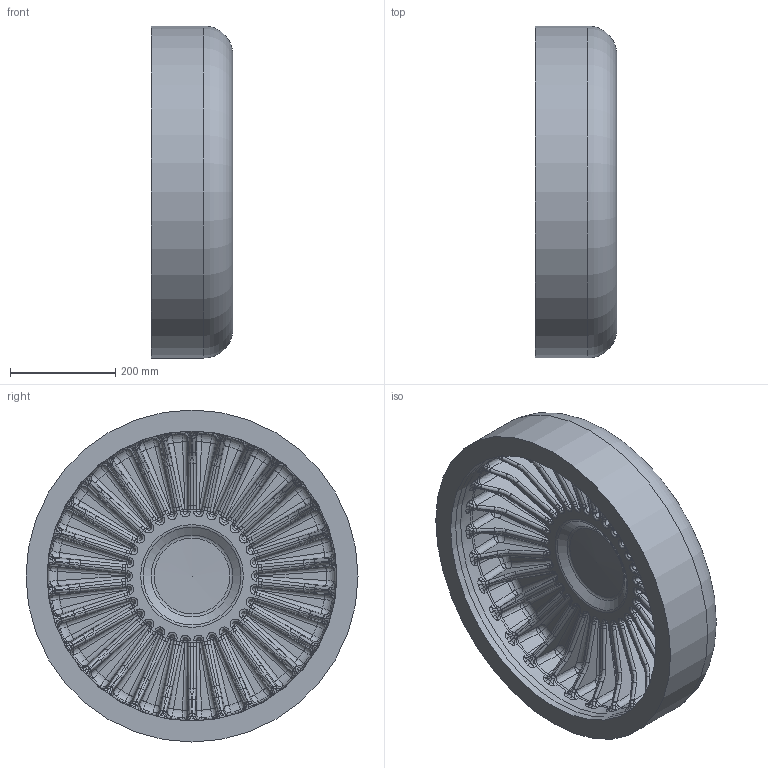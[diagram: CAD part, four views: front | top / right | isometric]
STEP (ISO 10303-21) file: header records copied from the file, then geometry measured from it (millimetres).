
FILE_DESCRIPTION(/* description */ ('Unknown'),/* implementation_level */ '2;1');
FILE_NAME(/* name */ 'CAP630B',/* time_stamp */ '2022-05-16T10:23:22+02:00',/* author */ ('Unknown'),/* organization */ ('Unknown'),/* preprocessor_version */ 'ST-DEVELOPER v18.1',/* originating_system */ 'Solid Edge',/* authorisation */ 'Unknown');
FILE_SCHEMA (('AUTOMOTIVE_DESIGN {1 0 10303 214 3 1 1}'));
Products named in the file (1): CAP630B
Bounding box: 155 x 630 x 630 mm (x, y, z)
Volume: 22222916.9 mm3; surface area: 1277936 mm2
Topology: 1 solids, 1 shells, 1362 faces, 3171 edges, 1662 vertices
Faces by surface type: bspline 750, cylinder 272, plane 153, sphere 90, torus 64, cone 33
Full cylindrical faces by diameter (mm): 550.2 x1, 630 x1
Entity records: 50652 total; most frequent: CARTESIAN_POINT 25622, ORIENTED_EDGE 6020, DIRECTION 4304, EDGE_CURVE 3010, AXIS2_PLACEMENT_3D 1882, VERTEX_POINT 1661, FACE_BOUND 1373, EDGE_LOOP 1372
